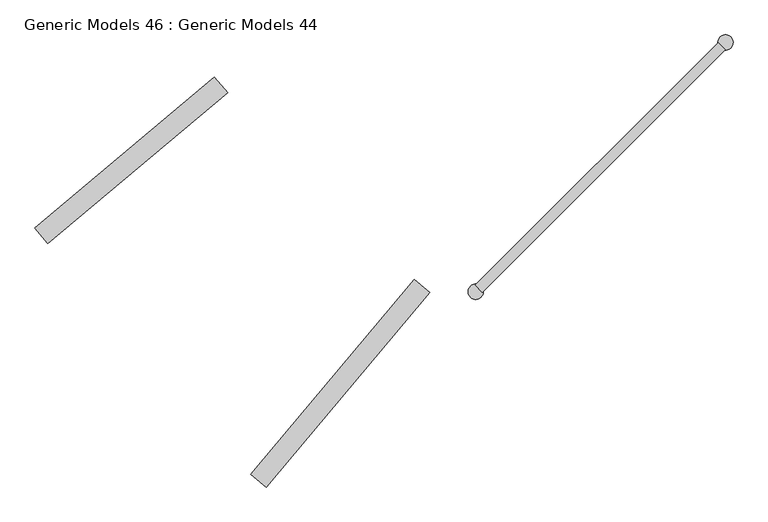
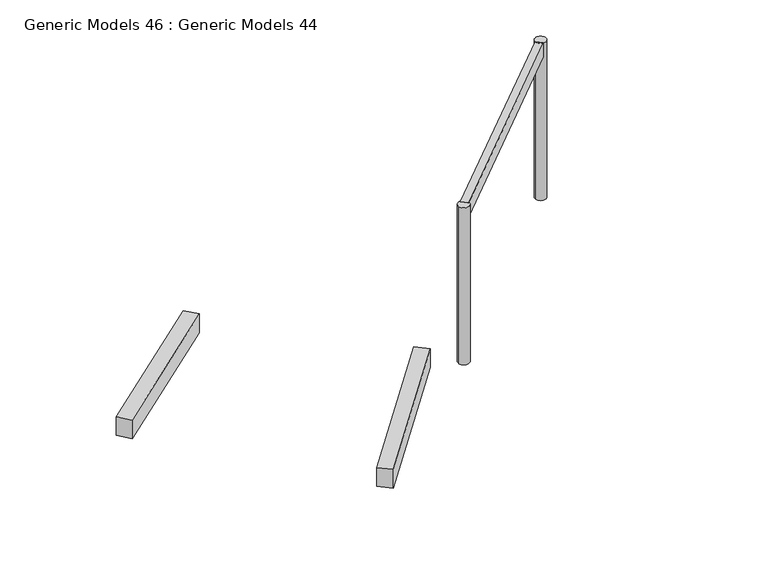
"""IFC4 building model written with IfcOpenShell, lengths in millimetres: proxy geometry, Generic Models 46 : Generic Models 44."""

from ifc_helpers import new_model, si_unit, point, frame, frame_2d, origin, place, context, project, spatial, polyline, circle_curve, trimmed, segment, composite_curve, outline, extrude, source, transform, mapped, element, save


def generic_models_46_generic_models_44_85f426d3(model_context):
    return source(origin(), model_context, "Body", "SweptSolid", [
        extrude(outline(polyline([(-127951.4401277, -35737.0994253), (-128104.6490164, -35608.5419033), (-126493.6216638, -33688.5942681), (-126340.4127752, -33817.1517901), (-127951.4401277, -35737.0994253)])), frame((0.0, 0.0, 42770.0), z_axis=(0.0, 0.0, 1.0), x_axis=(1.0, 0.0, 0.0)), (0.0, 0.0, 1.0), 268.5053554),
        extrude(outline(polyline([(-130100.4669693, -33333.9533005), (-130229.0244913, -33180.7444118), (-128460.6568168, -31696.9077484), (-128332.0992949, -31850.116637), (-130100.4669693, -33333.9533005)])), frame((0.0, 0.0, 42770.0), z_axis=(0.0, 0.0, 1.0), x_axis=(1.0, 0.0, 0.0)), (0.0, 0.0, 1.0), 268.5053554),
        extrude(outline(polyline([(-125822.63045, -33817.7796088), (-125893.3411281, -33747.0689307), (-123500.6260906, -31354.3538932), (-123429.9154125, -31425.0645713), (-125822.63045, -33817.7796088)])), frame((0.0, 0.0, 44746.1646464), z_axis=(0.0, 0.0, 1.0), x_axis=(1.0, 0.0, 0.0)), (0.0, 0.0, 1.0), 195.4634247),
        extrude(outline(composite_curve([segment(trimmed(circle_curve(frame_2d((-125887.6976514, -33810.9678051)), 75.0), [point((-125962.6976514, -33810.9678051))], [point((-125812.6976514, -33810.9678051))], False, "CARTESIAN"), True, "CONTINUOUS"), segment(trimmed(circle_curve(frame_2d((-125887.6976514, -33810.9678051)), 75.0), [point((-125812.6976514, -33810.9678051))], [point((-125962.6976514, -33810.9678051))], False, "CARTESIAN"), True, "CONTINUOUS")], self_intersect=False)), frame((0.0, 0.0, 42695.9057084), z_axis=(0.0, 0.0, 1.0), x_axis=(1.0, 0.0, 0.0)), (0.0, 0.0, 1.0), 2245.7223627),
        extrude(outline(composite_curve([segment(trimmed(circle_curve(frame_2d((-123427.5089221, -31353.5552475)), 75.0), [point((-123502.5089221, -31353.5552475))], [point((-123352.5089221, -31353.5552475))], False, "CARTESIAN"), True, "CONTINUOUS"), segment(trimmed(circle_curve(frame_2d((-123427.5089221, -31353.5552475)), 75.0), [point((-123352.5089221, -31353.5552475))], [point((-123502.5089221, -31353.5552475))], False, "CARTESIAN"), True, "CONTINUOUS")], self_intersect=False)), frame((0.0, 0.0, 42695.9057084), z_axis=(0.0, 0.0, 1.0), x_axis=(1.0, 0.0, 0.0)), (0.0, 0.0, 1.0), 2245.7223627),
    ])


if __name__ == "__main__":
    model = new_model("IFC4")
    model_context = context("Model", 3, world=origin())
    ifc_project = project(units=[si_unit("LENGTHUNIT", "METRE", prefix="MILLI")], contexts=[model_context])
    site = spatial("IfcSite", under=ifc_project)
    building = spatial("IfcBuilding", under=site)
    placement = place(None, origin())
    generic_models_46_generic_models_44_shape = generic_models_46_generic_models_44_85f426d3(model_context)
    element("IfcBuildingElementProxy", 1, Name="Generic Models 46 : Generic Models 44", ObjectType="Generic Models 46 : Generic Models 44", at=placement, inside=building, context=model_context, shape_type="MappedRepresentation", body=[
        mapped(generic_models_46_generic_models_44_shape, transform((0.0, 0.0, 0.0), x_axis=(1.0, 0.0, 0.0), y_axis=(0.0, 1.0, 0.0), z_axis=(0.0, 0.0, 1.0))),
    ])
    save(model, "model.ifc")
